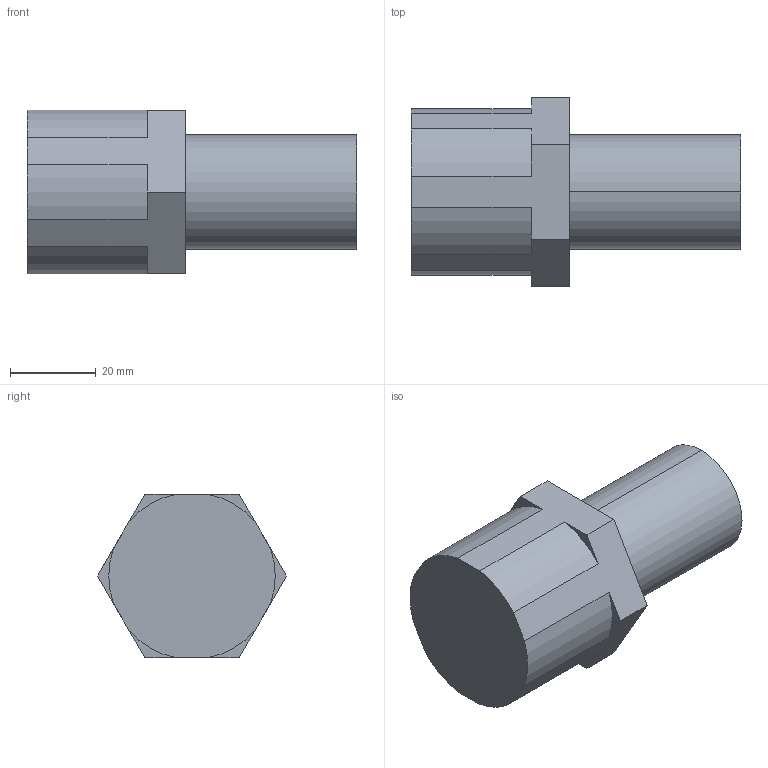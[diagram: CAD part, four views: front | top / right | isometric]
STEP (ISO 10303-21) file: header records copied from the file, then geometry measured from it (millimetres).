
FILE_DESCRIPTION (( 'STEP AP214' ), '1' );
FILE_NAME ('12-welable.STEP', '2012-12-03T19:16:11', ( '' ), ( '' ), 'SwSTEP 2.0', 'SolidWorks 2012', '' );
FILE_SCHEMA (( 'AUTOMOTIVE_DESIGN' ));
Length unit declared in the file: inch
Products named in the file (1): 12-welable
Bounding box: 76.68 x 43.99 x 38.1 mm (x, y, z)
Volume: 52800.4 mm3; surface area: 13010 mm2
Topology: 1 solids, 1 shells, 26 faces, 66 edges, 44 vertices
Faces by surface type: plane 16, cylinder 10
Entity records: 921 total; most frequent: DIRECTION 140, CARTESIAN_POINT 137, ORIENTED_EDGE 132, EDGE_CURVE 66, AXIS2_PLACEMENT_3D 47, VECTOR 46, LINE 46, VERTEX_POINT 44
